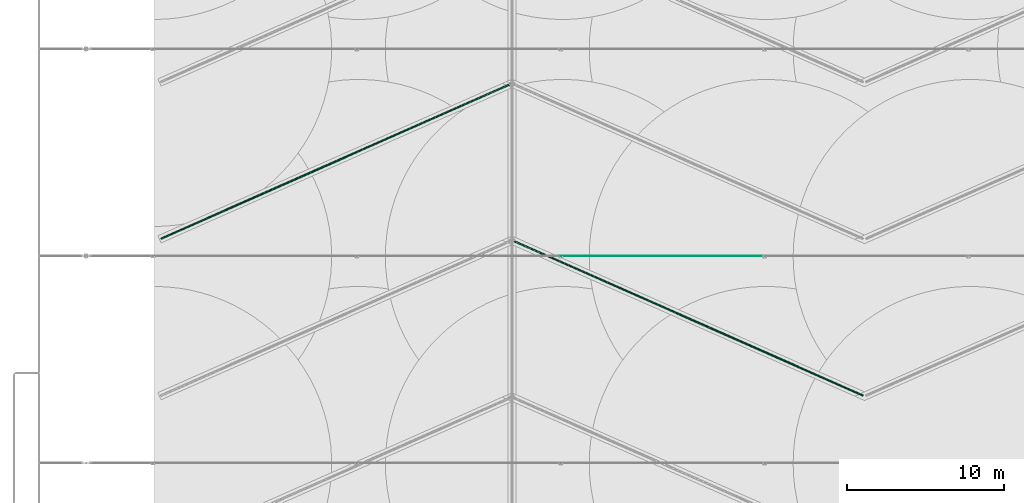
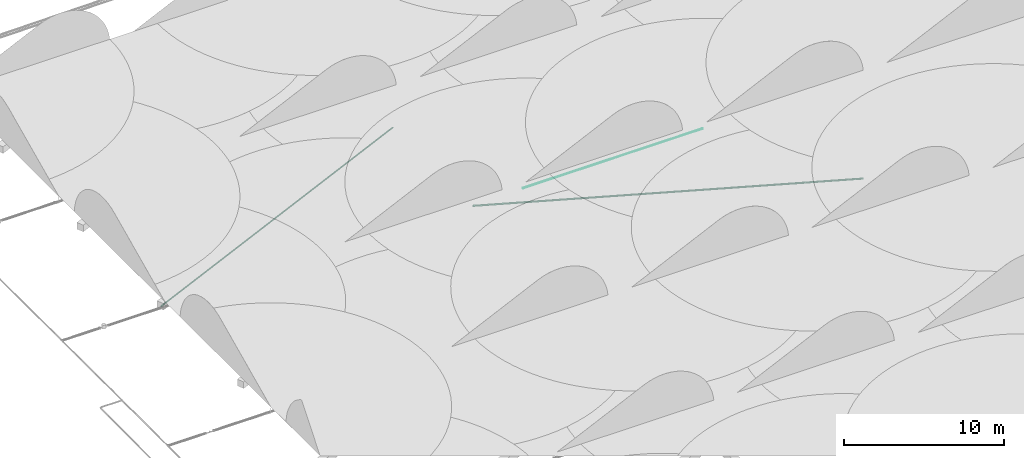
# One storey, part 20 of 166: 3 flow segments.
"""IFC2X3 building model written with IfcOpenShell, lengths in metres."""

import ifcopenshell
import ifcopenshell.guid

model = None  # the IFC model being written
_history = None  # IfcOwnerHistory: only IFC2X3 demands one
_inside = {}  # id of a spatial element -> (the spatial element, [elements in it])
_under = {}  # id of a project, library or spatial element -> (it, [spatial elements below it])
_declared = {}  # id of a project -> (the project, [libraries it declares])
_typed = {}  # id of a type object -> (the type object, [elements of that type])
_made_of = {}  # id of a material, layer set ... -> (it, [elements and type objects made of it])


def new_model(schema):
    """Start an empty IFC model of exactly this schema.

    Asked for "IFC4X3", IfcOpenShell would pick the latest addendum, in which some entities
    have other attributes; the version numbers below select the first issue.
    IFC2X3 requires an IfcOwnerHistory on every rooted entity: one is made here for all.
    """
    global model, _history
    if schema == "IFC4X3":
        model = ifcopenshell.file(schema_version=(4, 3, 0, 0))
    else:
        model = ifcopenshell.file(schema=schema)
    _inside.clear()
    _under.clear()
    _declared.clear()
    _typed.clear()
    _made_of.clear()
    _history = None
    if model.schema == "IFC2X3":
        org = make("IfcOrganization", Name="unknown")
        user = make(
            "IfcPersonAndOrganization",
            ThePerson=make("IfcPerson", FamilyName="unknown"),
            TheOrganization=org,
        )
        app = make(
            "IfcApplication",
            ApplicationDeveloper=org,
            Version="unknown",
            ApplicationFullName="unknown",
            ApplicationIdentifier="unknown",
        )
        _history = make(
            "IfcOwnerHistory",
            OwningUser=user,
            OwningApplication=app,
            ChangeAction="ADDED",
            CreationDate=0,
        )
    return model


def make(cls, **values):
    """One entity of the class cls with the attributes given. An attribute that is None is left unset."""
    return model.create_entity(
        cls, **{name: value for name, value in values.items() if value is not None}
    )


def entity(cls, *values):
    """Any entity or typed value of the class cls, its attributes in the order of the schema. None: left unset."""
    e = model.create_entity(cls)
    for i, value in enumerate(values):
        if value is not None:
            e[i] = value
    return e


def rooted(cls, **values):
    """An entity with a GlobalId (a new one), such as an element, a storey or a relation."""
    return make(cls, GlobalId=ifcopenshell.guid.new(), OwnerHistory=_history, **values)


def si_unit(unit_type, name, prefix=None):
    """IfcSIUnit, for example si_unit("LENGTHUNIT", "METRE", prefix="MILLI")."""
    return make("IfcSIUnit", UnitType=unit_type, Prefix=prefix, Name=name)


def converted_unit(unit_type, name, factor, base, dimensions=None, offset=None):
    """IfcConversionBasedUnit, such as the inch: factor (a typed value) times the base unit."""
    return make(
        "IfcConversionBasedUnit"
        if offset is None
        else "IfcConversionBasedUnitWithOffset",
        ConversionOffset=offset,
        Dimensions=None
        if dimensions is None
        else entity("IfcDimensionalExponents", *dimensions),
        UnitType=unit_type,
        Name=name,
        ConversionFactor=make(
            "IfcMeasureWithUnit", ValueComponent=factor, UnitComponent=base
        ),
    )


def assignment(units):
    """IfcUnitAssignment: the units of a project."""
    return None if units is None else make("IfcUnitAssignment", Units=units)


def point(xyz):
    """IfcCartesianPoint."""
    return None if xyz is None else make("IfcCartesianPoint", Coordinates=xyz)


def direction(xyz):
    """IfcDirection."""
    return None if xyz is None else make("IfcDirection", DirectionRatios=xyz)


def frame(location, z_axis=None, x_axis=None):
    """IfcAxis2Placement3D, a coordinate frame: its origin and axes. An axis left out is left unset."""
    return make(
        "IfcAxis2Placement3D",
        Location=point(location),
        Axis=direction(z_axis),
        RefDirection=direction(x_axis),
    )


def frame_2d(location, x_axis=None):
    """IfcAxis2Placement2D, a coordinate frame in the plane: its origin and x axis."""
    return make(
        "IfcAxis2Placement2D", Location=point(location), RefDirection=direction(x_axis)
    )


def origin():
    """The frame at (0, 0, 0) with its axes left unset."""
    return frame((0.0, 0.0, 0.0))


def place(relative_to, where):
    """IfcLocalPlacement: puts the frame where relative to a parent placement (None: the world)."""
    return make(
        "IfcLocalPlacement", PlacementRelTo=relative_to, RelativePlacement=where
    )


def context(
    kind, dimensions, precision=None, world=None, true_north=None, identifier=None
):
    """IfcGeometricRepresentationContext, for example the 3D "Model" context."""
    return make(
        "IfcGeometricRepresentationContext",
        ContextIdentifier=identifier,
        ContextType=kind,
        CoordinateSpaceDimension=dimensions,
        Precision=precision,
        WorldCoordinateSystem=world,
        TrueNorth=true_north,
    )


def subcontext(parent, identifier, kind, view, scale=None):
    """IfcGeometricRepresentationSubContext, for example "Body" below "Model"."""
    return make(
        "IfcGeometricRepresentationSubContext",
        ContextIdentifier=identifier,
        ContextType=kind,
        ParentContext=parent,
        TargetScale=scale,
        TargetView=view,
    )


def project(units=None, contexts=None):
    """IfcProject with its units and contexts."""
    return rooted(
        "IfcProject",
        Name="project",
        RepresentationContexts=contexts,
        UnitsInContext=assignment(units),
    )


def spatial(cls, under=None, at=None, **own):
    """A site, building, storey or space (cls), placed at a placement, below another one or the project."""
    s = rooted(cls, ObjectPlacement=at, **own)
    if under is not None:
        _under.setdefault(under.id(), (under, []))[1].append(s)
    return s


def profile(cls, at=None, kind="AREA", **sizes):
    """A parametric profile (cls). Its sizes go by their IFC names, for example OverallWidth=200.0."""
    return make(cls, ProfileType=kind, Position=at, **sizes)


def circle(**sizes):
    """IfcCircleProfileDef."""
    return profile("IfcCircleProfileDef", **sizes)


def extrude(swept, where, along, depth):
    """IfcExtrudedAreaSolid: the profile swept, set in the frame where, extruded along a direction by depth."""
    return make(
        "IfcExtrudedAreaSolid",
        SweptArea=swept,
        Position=where,
        ExtrudedDirection=direction(along),
        Depth=depth,
    )


def shape(context_of_items, identifier, shape_type, items):
    """IfcShapeRepresentation: the items that make up one representation, for example the "Body"."""
    return make(
        "IfcShapeRepresentation",
        ContextOfItems=context_of_items,
        RepresentationIdentifier=identifier,
        RepresentationType=shape_type,
        Items=items,
    )


def made_of(thing, what):
    """Note that an element or type object is made of a material, layer set ...; save() writes the relation."""
    if what is not None:
        _made_of.setdefault(what.id(), (what, []))[1].append(thing)
    return thing


def type_object(cls, material=None, **own):
    """A type object (cls), such as IfcWallType, which elements share."""
    return made_of(rooted(cls, **own), material)


def element(
    cls,
    number,
    at=None,
    inside=None,
    cuts=None,
    type_object=None,
    material=None,
    context=None,
    identifier="Body",
    shape_type=None,
    held_by="IfcProductDefinitionShape",
    body=None,
    shapes=None,
    **own,
):
    """One element of the class cls, such as IfcWall. Its Tag is "e" and its number.

    at: its placement. inside: the storey or other place that contains it. cuts: it is an
    opening in that element (IfcRelVoidsElement). A single representation is given by context,
    identifier, shape_type and body (its items); several are given by shapes. held_by: the class
    of the entity that holds the representations. save() writes the other relations.
    """
    e = rooted(cls, Tag="e%d" % number, ObjectPlacement=at, **own)
    if body is not None:
        shapes = [shape(context, identifier, shape_type, body)]
    if shapes is not None:
        e.Representation = make(held_by, Representations=shapes)
    if inside is not None:
        _inside.setdefault(inside.id(), (inside, []))[1].append(e)
    if cuts is not None:
        rooted(
            "IfcRelVoidsElement", RelatingBuildingElement=cuts, RelatedOpeningElement=e
        )
    if type_object is not None:
        _typed.setdefault(type_object.id(), (type_object, []))[1].append(e)
    return made_of(e, material)


def aggregate(whole, parts):
    """IfcRelAggregates: a whole, such as a stair, and the parts it consists of."""
    return rooted("IfcRelAggregates", RelatingObject=whole, RelatedObjects=parts)


def save(model, path):
    """Write the relations noted so far, then the file.

    IfcRelAggregates (storeys below a building ...), IfcRelContainedInSpatialStructure (elements
    in a storey), IfcRelDefinesByType, IfcRelAssociatesMaterial and IfcRelDeclares: one each for
    every whole, place, type object, material and project.
    """
    for whole, parts in _under.values():
        aggregate(whole, parts)
    for where, things in _inside.values():
        rooted(
            "IfcRelContainedInSpatialStructure",
            RelatedElements=things,
            RelatingStructure=where,
        )
    for kind, things in _typed.values():
        rooted("IfcRelDefinesByType", RelatedObjects=things, RelatingType=kind)
    for what, things in _made_of.values():
        rooted("IfcRelAssociatesMaterial", RelatedObjects=things, RelatingMaterial=what)
    for by, libraries in _declared.values():
        rooted("IfcRelDeclares", RelatingContext=by, RelatedDefinitions=libraries)
    model.write(path)


model = new_model("IFC2X3")

# Units and contexts
model_context = context("Model", 3, precision=1e-05, world=origin(), true_north=direction((6.123233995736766e-17, 1.0)))
body_context = subcontext(model_context, "Body", "Model", "MODEL_VIEW")
ifc_project = project(units=[si_unit("LENGTHUNIT", "METRE"), converted_unit("PLANEANGLEUNIT", "DEGREE", entity("IfcPlaneAngleMeasure", 0.017453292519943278), si_unit("PLANEANGLEUNIT", "RADIAN"), dimensions=[0, 0, 0, 0, 0, 0, 0]), si_unit("AREAUNIT", "SQUARE_METRE")], contexts=[model_context])

# Site, building, storey
site_placement = place(None, origin())
site = spatial("IfcSite", under=ifc_project, at=site_placement, Name="Default", CompositionType="ELEMENT")
building_placement = place(site_placement, origin())
building = spatial("IfcBuilding", under=site, at=building_placement, Name="CASA DE ACOLHIDA PARA IDOSOS", CompositionType="ELEMENT")
storey_placement = place(building_placement, frame((0.0, 0.0, -1.7499999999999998)))
storey = spatial("IfcBuildingStorey", under=building, at=storey_placement, Name="IMPLANTAÇÃO DRENAGEM", CompositionType="ELEMENT", Elevation=-1.7499999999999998)

# Flow segments
pipe_segment_type_1 = type_object("IfcPipeSegmentType", Name="Tipos de tubos:PLUV_Tubo PEAD Corrugado", PredefinedType="NOTDEFINED")
flow_segment_1_placement = place(storey_placement, origin())
element("IfcFlowSegment", 1, at=flow_segment_1_placement, inside=storey, type_object=pipe_segment_type_1, Name="Tipos de tubos:PLUV_Tubo PEAD Corrugado", ObjectType="Tipos de tubos:PLUV_Tubo PEAD Corrugado", context=body_context, shape_type="SweptSolid", body=[
    extrude(circle(Radius=0.05, at=frame_2d((2.7376585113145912e-17, 6.189194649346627e-19), x_axis=(1.0, 0.0))), frame((0.405557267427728, 13.953057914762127, -0.8500099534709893), z_axis=(-0.9144899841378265, 0.4044849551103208, -0.009999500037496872), x_axis=(0.4045051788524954, 0.914535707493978, 0.0)), (0.0, 0.0, 1.0), 24.480228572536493),
])
flow_segment_2_placement = place(storey_placement, origin())
element("IfcFlowSegment", 2, at=flow_segment_2_placement, inside=storey, type_object=pipe_segment_type_1, Name="Tipos de tubos:PLUV_Tubo PEAD Corrugado", ObjectType="Tipos de tubos:PLUV_Tubo PEAD Corrugado", context=body_context, shape_type="SweptSolid", body=[
    extrude(circle(Radius=0.05, at=frame_2d((3.5042028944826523e-15, -7.922169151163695e-17), x_axis=(1.0, 0.0))), frame((-44.36829041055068, 23.953057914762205, -0.9500099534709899), z_axis=(0.9144899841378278, 0.40448495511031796, -0.009999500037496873), x_axis=(0.40450517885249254, -0.9145357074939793, 0.0)), (0.0, 0.0, 1.0), 24.480228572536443),
])
pipe_segment_type_2 = type_object("IfcPipeSegmentType", Name="Tipos de tubos:AF_Tubo Marrom Soldável", PredefinedType="NOTDEFINED")
flow_segment_3_placement = place(storey_placement, origin())
element("IfcFlowSegment", 3, at=flow_segment_3_placement, inside=storey, type_object=pipe_segment_type_2, Name="Tipos de tubos:AF_Tubo Marrom Soldável", ObjectType="Tipos de tubos:AF_Tubo Marrom Soldável", context=body_context, shape_type="SweptSolid", body=[
    extrude(circle(Radius=0.025, at=frame_2d((0.0, -2.707167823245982e-16), x_axis=(1.0, 0.0))), frame((-18.958348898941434, 22.854942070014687, -0.19999999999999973), z_axis=(1.0, 0.0, 0.0), x_axis=(0.0, -1.0, 0.0)), (0.0, 0.0, 1.0), 12.9348),
])

save(model, "model.ifc")
